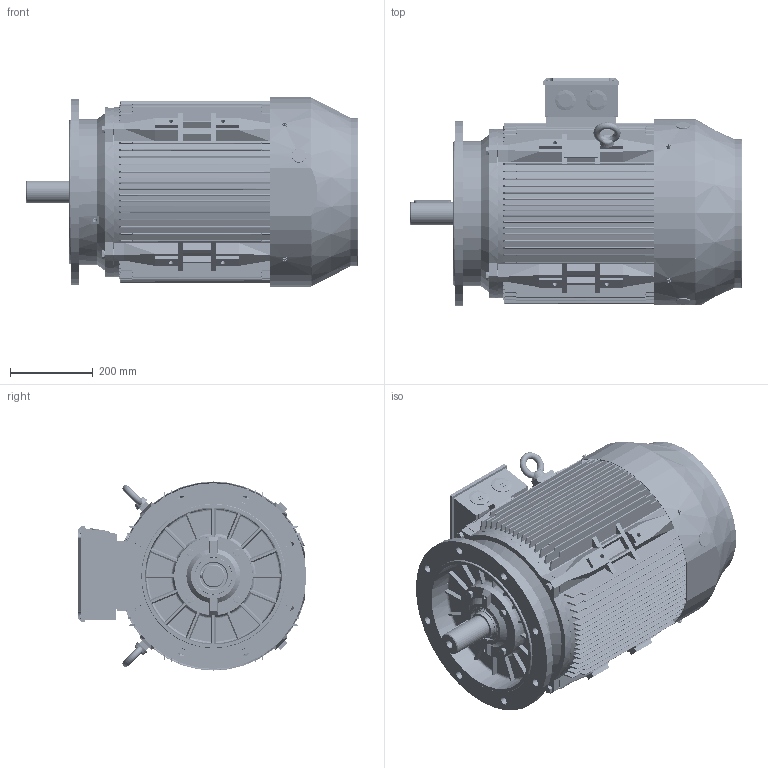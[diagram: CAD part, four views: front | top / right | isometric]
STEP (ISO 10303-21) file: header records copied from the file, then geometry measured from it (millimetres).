
FILE_DESCRIPTION (( 'STEP AP214' ), '1' );
FILE_NAME ('BCT3450.22D205.11.STEP', '2020-04-23T09:11:24', ( '' ), ( '' ), 'SwSTEP 2.0', 'SolidWorks 2019', '' );
FILE_SCHEMA (( 'AUTOMOTIVE_DESIGN' ));
Length unit declared in the file: millimetre
Products named in the file (1): BCT3450.22D205.11
Bounding box: 804.52 x 554 x 458.4 mm (x, y, z)
Volume: 21257063.8 mm3; surface area: 5145072.9 mm2
Topology: 51 solids, 52 shells, 8000 faces, 23122 edges, 15166 vertices
Faces by surface type: plane 3886, cylinder 3071, cone 425, torus 368, sphere 128, bspline 122
Entity records: 297069 total; most frequent: CARTESIAN_POINT 82678, ORIENTED_EDGE 45824, DIRECTION 43779, EDGE_CURVE 22912, AXIS2_PLACEMENT_3D 15342, VERTEX_POINT 15102, LINE 13095, VECTOR 13095
